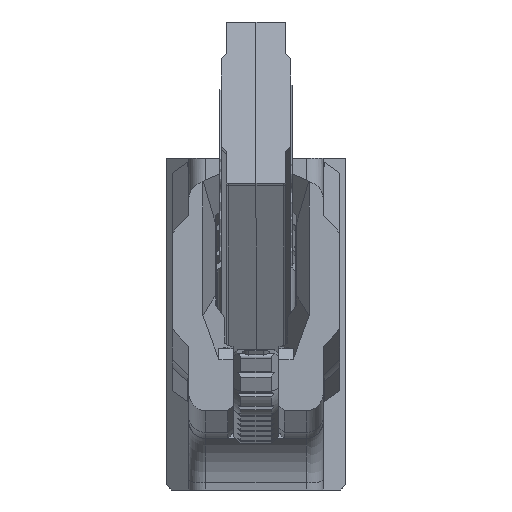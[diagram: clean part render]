
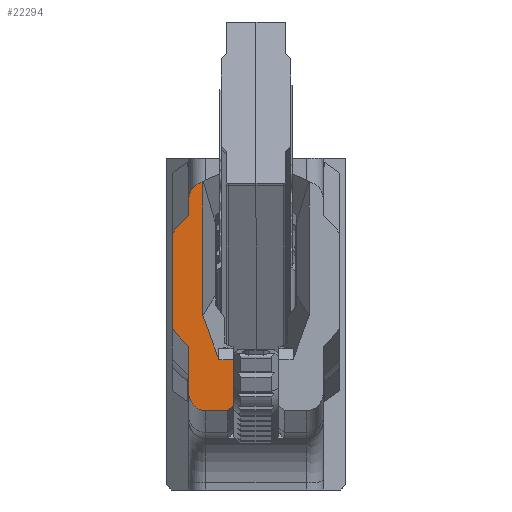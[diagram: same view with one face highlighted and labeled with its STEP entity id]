
A CAD part, front view. The second image highlights one B-rep face of the part: STEP entity #22294.
In plain terms, the highlighted planar face has unit normal (0, -1, 0).
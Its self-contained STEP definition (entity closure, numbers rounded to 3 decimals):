
#710=B_SPLINE_CURVE_WITH_KNOTS('',3,(#34549,#34550,#34551,#34552,#34553,
#34554),.UNSPECIFIED.,.F.,.U.,(4,2,4),(-2.117,-1.066,
-0.015),.UNSPECIFIED.);
#711=B_SPLINE_CURVE_WITH_KNOTS('',3,(#34556,#34557,#34558,#34559,#34560,
#34561),.UNSPECIFIED.,.F.,.U.,(4,2,4),(0.,2.112,4.023),
 .UNSPECIFIED.);
#712=B_SPLINE_CURVE_WITH_KNOTS('',3,(#34565,#34566,#34567,#34568),
 .UNSPECIFIED.,.F.,.U.,(4,4),(0.,1.),.UNSPECIFIED.);
#1280=PLANE('',#23445);
#2736=VECTOR('',#25511,1.);
#2890=VECTOR('',#25719,1.);
#2919=VECTOR('',#25770,1.);
#2934=VECTOR('',#25803,1.);
#3015=VECTOR('',#25955,1.);
#3022=VECTOR('',#25968,1.);
#3025=VECTOR('',#25987,1.);
#3026=VECTOR('',#25990,1.);
#5097=LINE('',#33534,#2736);
#5251=LINE('',#34060,#2890);
#5280=LINE('',#34125,#2919);
#5295=LINE('',#34167,#2934);
#5376=LINE('',#34475,#3015);
#5383=LINE('',#34491,#3022);
#5386=LINE('',#34563,#3025);
#5387=LINE('',#34572,#3026);
#7413=VERTEX_POINT('',#33533);
#7414=VERTEX_POINT('',#33535);
#7579=VERTEX_POINT('',#34059);
#7580=VERTEX_POINT('',#34061);
#7595=VERTEX_POINT('',#34126);
#7606=VERTEX_POINT('',#34166);
#7607=VERTEX_POINT('',#34168);
#7656=VERTEX_POINT('',#34476);
#7667=VERTEX_POINT('',#34519);
#7669=VERTEX_POINT('',#34555);
#7670=VERTEX_POINT('',#34562);
#7671=VERTEX_POINT('',#34564);
#7672=VERTEX_POINT('',#34569);
#7673=VERTEX_POINT('',#34571);
#8870=ELLIPSE('',#23446,0.502,0.476);
#8871=ELLIPSE('',#23447,0.502,0.476);
#10197=EDGE_CURVE('',#7413,#7414,#5097,.T.);
#10394=EDGE_CURVE('',#7580,#7579,#5251,.T.);
#10428=EDGE_CURVE('',#7414,#7595,#5280,.T.);
#10448=EDGE_CURVE('',#7606,#7607,#5295,.T.);
#10557=EDGE_CURVE('',#7580,#7656,#5376,.T.);
#10573=EDGE_CURVE('',#7667,#7656,#5383,.T.);
#10577=EDGE_CURVE('',#7669,#7579,#710,.F.);
#10578=EDGE_CURVE('',#7670,#7669,#711,.T.);
#10579=EDGE_CURVE('',#7670,#7671,#5386,.T.);
#10580=EDGE_CURVE('',#7671,#7672,#712,.T.);
#10581=EDGE_CURVE('',#7673,#7672,#8870,.T.);
#10582=EDGE_CURVE('',#7595,#7673,#5295,.T.);
#10583=EDGE_CURVE('',#7607,#7413,#5387,.T.);
#10584=EDGE_CURVE('',#7667,#7606,#8871,.T.);
#15501=ORIENTED_EDGE('',*,*,#10557,.F.);
#15502=ORIENTED_EDGE('',*,*,#10394,.T.);
#15503=ORIENTED_EDGE('',*,*,#10577,.F.);
#15504=ORIENTED_EDGE('',*,*,#10578,.F.);
#15505=ORIENTED_EDGE('',*,*,#10579,.T.);
#15506=ORIENTED_EDGE('',*,*,#10580,.T.);
#15507=ORIENTED_EDGE('',*,*,#10581,.F.);
#15508=ORIENTED_EDGE('',*,*,#10582,.F.);
#15509=ORIENTED_EDGE('',*,*,#10428,.F.);
#15510=ORIENTED_EDGE('',*,*,#10197,.F.);
#15511=ORIENTED_EDGE('',*,*,#10583,.F.);
#15512=ORIENTED_EDGE('',*,*,#10448,.F.);
#15513=ORIENTED_EDGE('',*,*,#10584,.F.);
#15514=ORIENTED_EDGE('',*,*,#10573,.T.);
#19721=EDGE_LOOP('',(#15501,#15502,#15503,#15504,#15505,#15506,#15507,#15508,
#15509,#15510,#15511,#15512,#15513,#15514));
#21029=FACE_BOUND('',#19721,.T.);
#22294=ADVANCED_FACE('',(#21029),#1280,.T.);
#23445=AXIS2_PLACEMENT_3D('',#34548,#25986,$);
#23446=AXIS2_PLACEMENT_3D('',#34570,#25988,#25989);
#23447=AXIS2_PLACEMENT_3D('',#34573,#25991,#25992);
#25511=DIRECTION('',(0.,0.,1.));
#25719=DIRECTION('',(0.,0.,1.));
#25770=DIRECTION('',(0.685,0.,0.729));
#25803=DIRECTION('',(0.,0.,1.));
#25955=DIRECTION('',(-0.689,0.,-0.725));
#25968=DIRECTION('',(1.,0.,0.));
#25986=DIRECTION('',(0.,-1.,0.));
#25987=DIRECTION('',(-0.342,0.,0.94));
#25988=DIRECTION('',(0.,1.,0.));
#25989=DIRECTION('',(0.,0.,0.502));
#25990=DIRECTION('',(-0.685,0.,0.729));
#25991=DIRECTION('',(0.,1.,0.));
#25992=DIRECTION('',(0.,0.,-0.502));
#33533=CARTESIAN_POINT('',(-2.381,-7.779,1.454));
#33534=CARTESIAN_POINT('',(-2.381,-7.779,0.947));
#33535=CARTESIAN_POINT('',(-2.381,-7.779,4.161));
#34059=CARTESIAN_POINT('',(-0.648,-7.779,0.569));
#34060=CARTESIAN_POINT('',(-0.648,-7.779,1.263));
#34061=CARTESIAN_POINT('',(-0.648,-7.779,-0.713));
#34125=CARTESIAN_POINT('',(-2.379,-7.779,4.164));
#34126=CARTESIAN_POINT('',(-1.905,-7.779,4.668));
#34166=CARTESIAN_POINT('',(-1.905,-7.779,-0.371));
#34167=CARTESIAN_POINT('',(-1.905,-7.779,-0.873));
#34168=CARTESIAN_POINT('',(-1.905,-7.779,0.947));
#34475=CARTESIAN_POINT('',(-0.315,-7.779,-0.362));
#34476=CARTESIAN_POINT('',(-0.8,-7.779,-0.873));
#34491=CARTESIAN_POINT('',(-1.905,-7.779,-0.873));
#34519=CARTESIAN_POINT('',(-1.429,-7.779,-0.873));
#34548=CARTESIAN_POINT('',(-2.381,-7.779,2.807));
#34549=CARTESIAN_POINT('',(1.051,-7.779,0.569));
#34550=CARTESIAN_POINT('',(0.701,-7.779,0.569));
#34551=CARTESIAN_POINT('',(0.35,-7.779,0.569));
#34552=CARTESIAN_POINT('',(-0.35,-7.779,0.569));
#34553=CARTESIAN_POINT('',(-0.701,-7.779,0.569));
#34554=CARTESIAN_POINT('',(-1.051,-7.779,0.569));
#34555=CARTESIAN_POINT('',(-1.051,-7.779,0.569));
#34556=CARTESIAN_POINT('',(-1.883,-7.779,2.858));
#34557=CARTESIAN_POINT('',(-1.643,-7.779,2.196));
#34558=CARTESIAN_POINT('',(-1.402,-7.779,1.535));
#34559=CARTESIAN_POINT('',(-0.944,-7.779,0.274));
#34560=CARTESIAN_POINT('',(-0.726,-7.779,-0.324));
#34561=CARTESIAN_POINT('',(-0.509,-7.779,-0.923));
#34562=CARTESIAN_POINT('',(-1.162,-7.779,0.873));
#34563=CARTESIAN_POINT('',(-1.162,-7.779,0.873));
#34564=CARTESIAN_POINT('',(-1.508,-7.779,1.826));
#34565=CARTESIAN_POINT('',(-1.508,-7.779,1.826));
#34566=CARTESIAN_POINT('',(-1.508,-7.779,3.109));
#34567=CARTESIAN_POINT('',(-1.508,-7.779,4.392));
#34568=CARTESIAN_POINT('',(-1.508,-7.779,5.675));
#34569=CARTESIAN_POINT('',(-1.508,-7.779,5.613));
#34570=CARTESIAN_POINT('',(-1.429,-7.779,5.119));
#34571=CARTESIAN_POINT('',(-1.905,-7.779,5.119));
#34572=CARTESIAN_POINT('',(-2.366,-7.779,1.438));
#34573=CARTESIAN_POINT('',(-1.429,-7.779,-0.371));
